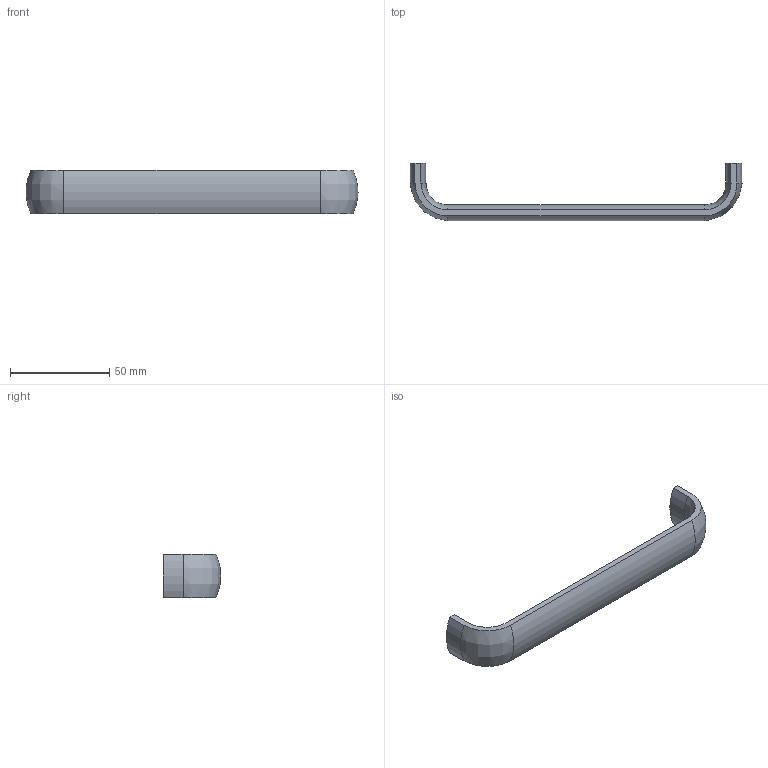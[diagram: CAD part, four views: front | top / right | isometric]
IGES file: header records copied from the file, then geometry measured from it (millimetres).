
Start section: Data from Parasolid IGES Translator 15.0.47, Copyright(c) 2006 Siemens P LM Software. All Rights Reserved.
Global section: file name:  115170.igs; native system:  By UGS Corp.; preprocessor: XPlus GENERIC/IGES 3.0; author: Noname; organization: Noname; date: 20140122.153451; units: millimetre
Bounding box: 167 x 29 x 22 mm (x, y, z)
Surface area: 10608.5 mm2 (no closed solid volume)
Topology: 0 solids, 0 shells, 24 faces, 120 edges, 118 vertices
Faces by surface type: revolution 14, extrusion 10
